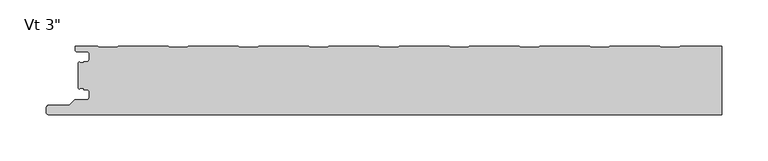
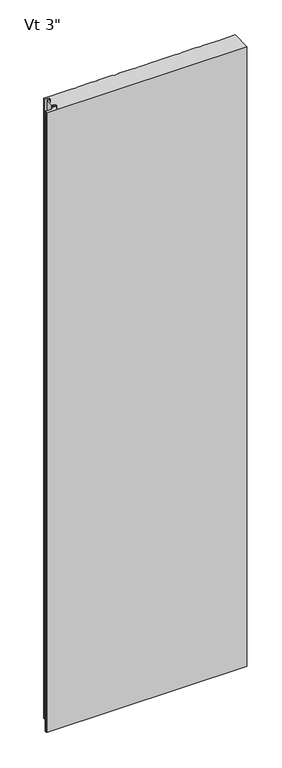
"""IFC4 building model written with IfcOpenShell, lengths in millimetres: plate geometry."""

import ifcopenshell
import ifcopenshell.guid

model = None  # the IFC model being written
_history = None  # IfcOwnerHistory: only IFC2X3 demands one
_inside = {}  # id of a spatial element -> (the spatial element, [elements in it])
_under = {}  # id of a project, library or spatial element -> (it, [spatial elements below it])
_declared = {}  # id of a project -> (the project, [libraries it declares])
_typed = {}  # id of a type object -> (the type object, [elements of that type])
_made_of = {}  # id of a material, layer set ... -> (it, [elements and type objects made of it])


def new_model(schema):
    """Start an empty IFC model of exactly this schema.

    Asked for "IFC4X3", IfcOpenShell would pick the latest addendum, in which some entities
    have other attributes; the version numbers below select the first issue.
    IFC2X3 requires an IfcOwnerHistory on every rooted entity: one is made here for all.
    """
    global model, _history
    if schema == "IFC4X3":
        model = ifcopenshell.file(schema_version=(4, 3, 0, 0))
    else:
        model = ifcopenshell.file(schema=schema)
    _inside.clear()
    _under.clear()
    _declared.clear()
    _typed.clear()
    _made_of.clear()
    _history = None
    if model.schema == "IFC2X3":
        org = make("IfcOrganization", Name="unknown")
        user = make(
            "IfcPersonAndOrganization",
            ThePerson=make("IfcPerson", FamilyName="unknown"),
            TheOrganization=org,
        )
        app = make(
            "IfcApplication",
            ApplicationDeveloper=org,
            Version="unknown",
            ApplicationFullName="unknown",
            ApplicationIdentifier="unknown",
        )
        _history = make(
            "IfcOwnerHistory",
            OwningUser=user,
            OwningApplication=app,
            ChangeAction="ADDED",
            CreationDate=0,
        )
    return model


def make(cls, **values):
    """One entity of the class cls with the attributes given. An attribute that is None is left unset."""
    return model.create_entity(
        cls, **{name: value for name, value in values.items() if value is not None}
    )


def rooted(cls, **values):
    """An entity with a GlobalId (a new one), such as an element, a storey or a relation."""
    return make(cls, GlobalId=ifcopenshell.guid.new(), OwnerHistory=_history, **values)


def si_unit(unit_type, name, prefix=None):
    """IfcSIUnit, for example si_unit("LENGTHUNIT", "METRE", prefix="MILLI")."""
    return make("IfcSIUnit", UnitType=unit_type, Prefix=prefix, Name=name)


def assignment(units):
    """IfcUnitAssignment: the units of a project."""
    return None if units is None else make("IfcUnitAssignment", Units=units)


def point(xyz):
    """IfcCartesianPoint."""
    return None if xyz is None else make("IfcCartesianPoint", Coordinates=xyz)


def direction(xyz):
    """IfcDirection."""
    return None if xyz is None else make("IfcDirection", DirectionRatios=xyz)


def frame(location, z_axis=None, x_axis=None):
    """IfcAxis2Placement3D, a coordinate frame: its origin and axes. An axis left out is left unset."""
    return make(
        "IfcAxis2Placement3D",
        Location=point(location),
        Axis=direction(z_axis),
        RefDirection=direction(x_axis),
    )


def origin():
    """The frame at (0, 0, 0) with its axes left unset."""
    return frame((0.0, 0.0, 0.0))


def place(relative_to, where):
    """IfcLocalPlacement: puts the frame where relative to a parent placement (None: the world)."""
    return make(
        "IfcLocalPlacement", PlacementRelTo=relative_to, RelativePlacement=where
    )


def context(
    kind, dimensions, precision=None, world=None, true_north=None, identifier=None
):
    """IfcGeometricRepresentationContext, for example the 3D "Model" context."""
    return make(
        "IfcGeometricRepresentationContext",
        ContextIdentifier=identifier,
        ContextType=kind,
        CoordinateSpaceDimension=dimensions,
        Precision=precision,
        WorldCoordinateSystem=world,
        TrueNorth=true_north,
    )


def project(units=None, contexts=None):
    """IfcProject with its units and contexts."""
    return rooted(
        "IfcProject",
        Name="project",
        RepresentationContexts=contexts,
        UnitsInContext=assignment(units),
    )


def spatial(cls, under=None, at=None, **own):
    """A site, building, storey or space (cls), placed at a placement, below another one or the project."""
    s = rooted(cls, ObjectPlacement=at, **own)
    if under is not None:
        _under.setdefault(under.id(), (under, []))[1].append(s)
    return s


def polyline(points):
    """IfcPolyline through the points."""
    return make("IfcPolyline", Points=[point(p) for p in points])


def circle_curve(where, radius):
    """IfcCircle in the frame where."""
    return make("IfcCircle", Position=where, Radius=radius)


def shape(context_of_items, identifier, shape_type, items):
    """IfcShapeRepresentation: the items that make up one representation, for example the "Body"."""
    return make(
        "IfcShapeRepresentation",
        ContextOfItems=context_of_items,
        RepresentationIdentifier=identifier,
        RepresentationType=shape_type,
        Items=items,
    )


def source(mapping_origin, context_of_items, identifier, shape_type, items):
    """IfcRepresentationMap: a shape defined once, which mapped items show again and again."""
    return make(
        "IfcRepresentationMap",
        MappingOrigin=mapping_origin,
        MappedRepresentation=shape(context_of_items, identifier, shape_type, items),
    )


def transform(
    local_origin,
    x_axis=None,
    y_axis=None,
    z_axis=None,
    scale=None,
    scale2=None,
    scale3=None,
    uniform=True,
):
    """IfcCartesianTransformationOperator3D, or its non-uniform kind. x_axis, y_axis, z_axis: its Axis1, 2, 3."""
    if uniform:
        return make(
            "IfcCartesianTransformationOperator3D",
            Axis1=direction(x_axis),
            Axis2=direction(y_axis),
            LocalOrigin=point(local_origin),
            Scale=scale,
            Axis3=direction(z_axis),
        )
    return make(
        "IfcCartesianTransformationOperator3DnonUniform",
        Axis1=direction(x_axis),
        Axis2=direction(y_axis),
        LocalOrigin=point(local_origin),
        Scale=scale,
        Axis3=direction(z_axis),
        Scale2=scale2,
        Scale3=scale3,
    )


def mapped(mapping_source, mapping_target):
    """IfcMappedItem: shows the shape of a source again, moved by a transform."""
    return make(
        "IfcMappedItem", MappingSource=mapping_source, MappingTarget=mapping_target
    )


def made_of(thing, what):
    """Note that an element or type object is made of a material, layer set ...; save() writes the relation."""
    if what is not None:
        _made_of.setdefault(what.id(), (what, []))[1].append(thing)
    return thing


def element(
    cls,
    number,
    at=None,
    inside=None,
    cuts=None,
    type_object=None,
    material=None,
    context=None,
    identifier="Body",
    shape_type=None,
    held_by="IfcProductDefinitionShape",
    body=None,
    shapes=None,
    **own,
):
    """One element of the class cls, such as IfcWall. Its Tag is "e" and its number.

    at: its placement. inside: the storey or other place that contains it. cuts: it is an
    opening in that element (IfcRelVoidsElement). A single representation is given by context,
    identifier, shape_type and body (its items); several are given by shapes. held_by: the class
    of the entity that holds the representations. save() writes the other relations.
    """
    e = rooted(cls, Tag="e%d" % number, ObjectPlacement=at, **own)
    if body is not None:
        shapes = [shape(context, identifier, shape_type, body)]
    if shapes is not None:
        e.Representation = make(held_by, Representations=shapes)
    if inside is not None:
        _inside.setdefault(inside.id(), (inside, []))[1].append(e)
    if cuts is not None:
        rooted(
            "IfcRelVoidsElement", RelatingBuildingElement=cuts, RelatedOpeningElement=e
        )
    if type_object is not None:
        _typed.setdefault(type_object.id(), (type_object, []))[1].append(e)
    return made_of(e, material)


def aggregate(whole, parts):
    """IfcRelAggregates: a whole, such as a stair, and the parts it consists of."""
    return rooted("IfcRelAggregates", RelatingObject=whole, RelatedObjects=parts)


def save(model, path):
    """Write the relations noted so far, then the file.

    IfcRelAggregates (storeys below a building ...), IfcRelContainedInSpatialStructure (elements
    in a storey), IfcRelDefinesByType, IfcRelAssociatesMaterial and IfcRelDeclares: one each for
    every whole, place, type object, material and project.
    """
    for whole, parts in _under.values():
        aggregate(whole, parts)
    for where, things in _inside.values():
        rooted(
            "IfcRelContainedInSpatialStructure",
            RelatedElements=things,
            RelatingStructure=where,
        )
    for kind, things in _typed.values():
        rooted("IfcRelDefinesByType", RelatedObjects=things, RelatingType=kind)
    for what, things in _made_of.values():
        rooted("IfcRelAssociatesMaterial", RelatedObjects=things, RelatingMaterial=what)
    for by, libraries in _declared.values():
        rooted("IfcRelDeclares", RelatingContext=by, RelatedDefinitions=libraries)
    model.write(path)


def plane_surface(at):
    """IfcPlane: the flat surface through the origin of the frame at, square to its z axis."""
    return make("IfcPlane", Position=at)


def cylinder_surface(at, radius):
    """IfcCylindricalSurface: all points at the distance radius from the z axis of the frame at."""
    return make("IfcCylindricalSurface", Position=at, Radius=radius)


def revolved_surface(curve, axis_point, axis_direction):
    """IfcSurfaceOfRevolution: the curve turned about the line through axis_point along axis_direction."""
    return make(
        "IfcSurfaceOfRevolution",
        SweptCurve=make("IfcArbitraryOpenProfileDef", ProfileType="CURVE", Curve=curve),
        AxisPosition=make("IfcAxis1Placement", Location=point(axis_point), Axis=direction(axis_direction)),
    )


def advanced_brep(points, edges, surfaces, faces):
    """IfcAdvancedBrep: a solid bounded by faces that lie on surfaces and meet in shared edges.

    An edge is (start, end): straight between two places in points (the first is 0);
    or (start, end, curve); or (start, end, curve, False) where it runs against its curve.
    A face is (place in surfaces, loops), or (place, loops, False) where it looks against
    its surface's normal. A loop lists edges by number (the first is 1), with a minus sign
    where the edge is run from its end to its start. The first loop is the outer one.
    """
    corners = [point(p) for p in points]
    vertices = [make("IfcVertexPoint", VertexGeometry=c) for c in corners]
    made = []
    for start, end, *more in edges:
        made.append(
            make(
                "IfcEdgeCurve",
                EdgeStart=vertices[start],
                EdgeEnd=vertices[end],
                EdgeGeometry=more[0] if more else make("IfcPolyline", Points=[corners[start], corners[end]]),
                SameSense=more[1] if len(more) > 1 else True,
            )
        )
    hull = []
    for where, loops, *sense in faces:
        bounds = []
        for j, loop in enumerate(loops):
            ring = [make("IfcOrientedEdge", EdgeElement=made[abs(k) - 1], Orientation=k > 0) for k in loop]
            bounds.append(
                make(
                    "IfcFaceOuterBound" if j == 0 else "IfcFaceBound",
                    Bound=make("IfcEdgeLoop", EdgeList=ring),
                    Orientation=True,
                )
            )
        hull.append(make("IfcAdvancedFace", Bounds=bounds, FaceSurface=surfaces[where], SameSense=sense[0] if sense else True))
    return make("IfcAdvancedBrep", Outer=make("IfcClosedShell", CfsFaces=hull))


def plate_a3a11aaa(model_context):
    return source(origin(), model_context, "Body", "AdvancedBrep", [
        advanced_brep(
        [(-347.9683, -47.8708793, 2400.0), (-346.767176, -46.7014045, 2400.0), (-343.0087826, -46.7014045, 2400.0), (-343.0087826, -48.0998834, 2400.0), (-340.3096715, -48.0998834, 2400.0), (-336.9596762, -51.4498787, 2400.0), (-336.9596762, -55.8498699, 2400.0), (-340.3096715, -59.1998652, 2400.0), (-352.1205606, -59.1998652, 2400.0), (-353.3226383, -59.6977821, 2400.0), (-358.8247094, -65.1998532, 2400.0), (-380.9198391, -65.1998532, 2400.0), (-383.5765707, -67.4184552, 2400.0), (-384.0125697, -72.4002761, 2400.0), (-381.4521175, -75.194601, 2400.0), (348.9999998, -75.2000043, 2400.0), (348.9999998, -1.0000043, 2400.0), (303.7792489, -1.0000043, 2400.0), (302.3936159, -2.200235, 2400.0), (283.0184496, -2.200235, 2400.0), (281.6328167, -1.0000043, 2400.0), (227.5794013, -1.0000043, 2400.0), (226.1937683, -2.200235, 2400.0), (206.818602, -2.200235, 2400.0), (205.4329691, -1.0000043, 2400.0), (151.3795537, -1.0000043, 2400.0), (149.9939207, -2.200235, 2400.0), (130.6187544, -2.200235, 2400.0), (129.2331215, -1.0000043, 2400.0), (75.1797061, -1.0000043, 2400.0), (73.7940731, -2.200235, 2400.0), (54.4189068, -2.200235, 2400.0), (53.0332739, -1.0000043, 2400.0), (-1.0201415, -1.0000043, 2400.0), (-2.4057745, -2.200235, 2400.0), (-21.7809408, -2.200235, 2400.0), (-23.1665737, -1.0000043, 2400.0), (-77.2199891, -1.0000043, 2400.0), (-78.6056221, -2.200235, 2400.0), (-97.9807884, -2.200235, 2400.0), (-99.3664213, -1.0000043, 2400.0), (-153.4198367, -1.0000043, 2400.0), (-154.8054697, -2.200235, 2400.0), (-174.180636, -2.200235, 2400.0), (-175.5662689, -1.0000043, 2400.0), (-229.6196843, -1.0000043, 2400.0), (-231.0053173, -2.200235, 2400.0), (-250.3804836, -2.200235, 2400.0), (-251.7661165, -1.0000043, 2400.0), (-305.8195319, -1.0000043, 2400.0), (-307.2051649, -2.200235, 2400.0), (-326.5803312, -2.200235, 2400.0), (-327.9659738, -0.9999959, 2400.0), (-352.4662504, -0.9999959, 2400.0), (-352.4662504, -5.2315432, 2400.0), (-350.6962562, -7.0015374, 2400.0), (-340.2762777, -7.0015374, 2400.0), (-336.9762818, -10.3015333, 2400.0), (-336.9762818, -14.7015245, 2400.0), (-340.2762775, -18.0015202, 2400.0), (-342.9684873, -18.0015202, 2400.0), (-342.9684873, -19.0015147, 2400.0), (-346.968691, -19.0015147, 2400.0), (-347.9686882, -18.0015235, 2400.0), (-348.9999998, -19.0328351, 2400.0), (-348.9999998, -46.8391794, 2400.0), (-347.9683, -47.8708793, 0.0), (-348.9999998, -46.8391794, 0.0), (-348.9999998, -19.0328351, 0.0), (-347.9686882, -18.0015235, 0.0), (-346.968691, -19.0015147, 0.0), (-342.9684873, -19.0015147, 0.0), (-342.9684873, -18.0015202, 0.0), (-340.2762775, -18.0015202, 0.0), (-336.9762818, -14.7015245, 0.0), (-336.9762818, -10.3015333, 0.0), (-340.2762777, -7.0015374, 0.0), (-350.6962562, -7.0015374, 0.0), (-352.4662504, -5.2315432, 0.0), (-352.4662504, -0.9999959, 0.0), (-327.9659738, -0.9999959, 0.0), (-326.5803312, -2.200235, 0.0), (-307.2051649, -2.200235, 0.0), (-305.8195319, -1.0000043, 0.0), (-251.7661165, -1.0000043, 0.0), (-250.3804836, -2.200235, 0.0), (-231.0053173, -2.200235, 0.0), (-229.6196843, -1.0000043, 0.0), (-175.5662689, -1.0000043, 0.0), (-174.180636, -2.200235, 0.0), (-154.8054697, -2.200235, 0.0), (-153.4198367, -1.0000043, 0.0), (-99.3664213, -1.0000043, 0.0), (-97.9807884, -2.200235, 0.0), (-78.6056221, -2.200235, 0.0), (-77.2199891, -1.0000043, 0.0), (-23.1665737, -1.0000043, 0.0), (-21.7809408, -2.200235, 0.0), (-2.4057745, -2.200235, 0.0), (-1.0201415, -1.0000043, 0.0), (53.0332739, -1.0000043, 0.0), (54.4189068, -2.200235, 0.0), (73.7940731, -2.200235, 0.0), (75.1797061, -1.0000043, 0.0), (129.2331215, -1.0000043, 0.0), (130.6187544, -2.200235, 0.0), (149.9939207, -2.200235, 0.0), (151.3795537, -1.0000043, 0.0), (205.4329691, -1.0000043, 0.0), (206.818602, -2.200235, 0.0), (226.1937683, -2.200235, 0.0), (227.5794013, -1.0000043, 0.0), (281.6328167, -1.0000043, 0.0), (283.0184496, -2.200235, 0.0), (302.3936159, -2.200235, 0.0), (303.7792489, -1.0000043, 0.0), (348.9999998, -1.0000043, 0.0), (348.9999998, -75.2000043, 0.0), (-381.4521175, -75.2000043, 0.0), (-384.0125697, -72.4002761, 0.0), (-383.5765707, -67.4184552, 0.0), (-380.9198391, -65.1998532, 0.0), (-358.8247094, -65.1998532, 0.0), (-353.3226383, -59.6977821, 0.0), (-352.1205606, -59.1998652, 0.0), (-340.3096715, -59.1998652, 0.0), (-336.9596762, -55.8498699, 0.0), (-336.9596762, -51.4498787, 0.0), (-340.3096715, -48.0998834, 0.0), (-343.0087826, -48.0998834, 0.0), (-343.0087826, -46.7014045, 0.0), (-346.767176, -46.7014045, 0.0)],
        [
            (0, 1, circle_curve(frame((-346.7686906, -47.9014012, 2400.0), z_axis=(0.0, 0.0, -1.0), x_axis=(-1.0, 0.0, 0.0)), 1.1999976)),
            (1, 2),
            (2, 3),
            (3, 4),
            (4, 5, circle_curve(frame((-340.3096715, -51.4498787, 2400.0), z_axis=(0.0, 0.0, -1.0), x_axis=(-1.0, 0.0, 0.0)), 3.3499953)),
            (5, 6),
            (6, 7, circle_curve(frame((-340.3096715, -55.8498699, 2400.0), z_axis=(0.0, 0.0, -1.0), x_axis=(-1.0, 0.0, 0.0)), 3.3499953)),
            (7, 8),
            (8, 9, circle_curve(frame((-352.1205606, -60.8998598, 2400.0), z_axis=(0.0, 0.0, 1.0), x_axis=(-1.0, 0.0, 0.0)), 1.6999946)),
            (9, 10),
            (10, 11),
            (11, 12, circle_curve(frame((-380.9198391, -67.8998458, 2400.0), z_axis=(0.0, 0.0, 1.0), x_axis=(-1.0, 0.0, 0.0)), 2.6999926)),
            (12, 13),
            (13, 14, circle_curve(frame((-381.4521175, -72.6243617, 2400.0), z_axis=(0.0, 0.0, 1.0), x_axis=(-1.0, 0.0, 0.0)), 2.5702393)),
            (14, 15),
            (15, 16),
            (16, 17),
            (17, 18),
            (18, 19),
            (19, 20),
            (20, 21),
            (21, 22),
            (22, 23),
            (23, 24),
            (24, 25),
            (25, 26),
            (26, 27),
            (27, 28),
            (28, 29),
            (29, 30),
            (30, 31),
            (31, 32),
            (32, 33),
            (33, 34),
            (34, 35),
            (35, 36),
            (36, 37),
            (37, 38),
            (38, 39),
            (39, 40),
            (40, 41),
            (41, 42),
            (42, 43),
            (43, 44),
            (44, 45),
            (45, 46),
            (46, 47),
            (47, 48),
            (48, 49),
            (49, 50),
            (50, 51),
            (51, 52),
            (52, 53),
            (53, 54),
            (54, 55, circle_curve(frame((-350.6962562, -5.2315432, 2400.0), z_axis=(0.0, 0.0, 1.0), x_axis=(1.0, 0.0, 0.0)), 1.7699942)),
            (55, 56),
            (56, 57, circle_curve(frame((-340.2762777, -10.3015333, 2400.0), z_axis=(0.0, 0.0, -1.0), x_axis=(1.0, 0.0, 0.0)), 3.2999959)),
            (57, 58),
            (58, 59, circle_curve(frame((-340.2762775, -14.7015245, 2400.0), z_axis=(0.0, 0.0, -1.0), x_axis=(1.0, 0.0, 0.0)), 3.2999957)),
            (59, 60),
            (60, 61),
            (61, 62),
            (62, 63, circle_curve(frame((-346.968691, -18.0015175, 2400.0), z_axis=(0.0, 0.0, -1.0), x_axis=(1.0, 0.0, 0.0)), 0.9999972)),
            (63, 64),
            (64, 65),
            (65, 0),
            (66, 67),
            (67, 68),
            (68, 69),
            (69, 70, circle_curve(frame((-346.968691, -18.0015175, 0.0), z_axis=(0.0, 0.0, 1.0), x_axis=(1.0, 0.0, 0.0)), 0.9999972)),
            (70, 71),
            (71, 72),
            (72, 73),
            (73, 74, circle_curve(frame((-340.2762775, -14.7015245, 0.0), z_axis=(0.0, 0.0, 1.0), x_axis=(1.0, 0.0, 0.0)), 3.2999957)),
            (74, 75),
            (75, 76, circle_curve(frame((-340.2762777, -10.3015333, 0.0), z_axis=(0.0, 0.0, 1.0), x_axis=(1.0, 0.0, 0.0)), 3.2999959)),
            (76, 77),
            (77, 78, circle_curve(frame((-350.6962562, -5.2315432, 0.0), z_axis=(0.0, 0.0, -1.0), x_axis=(1.0, 0.0, 0.0)), 1.7699942)),
            (78, 79),
            (79, 80),
            (80, 81),
            (81, 82),
            (82, 83),
            (83, 84),
            (84, 85),
            (85, 86),
            (86, 87),
            (87, 88),
            (88, 89),
            (89, 90),
            (90, 91),
            (91, 92),
            (92, 93),
            (93, 94),
            (94, 95),
            (95, 96),
            (96, 97),
            (97, 98),
            (98, 99),
            (99, 100),
            (100, 101),
            (101, 102),
            (102, 103),
            (103, 104),
            (104, 105),
            (105, 106),
            (106, 107),
            (107, 108),
            (108, 109),
            (109, 110),
            (110, 111),
            (111, 112),
            (112, 113),
            (113, 114),
            (114, 115),
            (115, 116),
            (116, 117),
            (117, 118),
            (118, 119, circle_curve(frame((-381.4521175, -72.6243617, 0.0), z_axis=(0.0, 0.0, -1.0), x_axis=(-1.0, 0.0, 0.0)), 2.5702393)),
            (119, 120),
            (120, 121, circle_curve(frame((-380.9198391, -67.8998458, 0.0), z_axis=(0.0, 0.0, -1.0), x_axis=(-1.0, 0.0, 0.0)), 2.6999926)),
            (121, 122),
            (122, 123),
            (123, 124, circle_curve(frame((-352.1205606, -60.8998598, 0.0), z_axis=(0.0, 0.0, -1.0), x_axis=(-1.0, 0.0, 0.0)), 1.6999946)),
            (124, 125),
            (125, 126, circle_curve(frame((-340.3096715, -55.8498699, 0.0), z_axis=(0.0, 0.0, 1.0), x_axis=(-1.0, 0.0, 0.0)), 3.3499953)),
            (126, 127),
            (127, 128, circle_curve(frame((-340.3096715, -51.4498787, 0.0), z_axis=(0.0, 0.0, 1.0), x_axis=(-1.0, 0.0, 0.0)), 3.3499953)),
            (128, 129),
            (129, 130),
            (130, 131),
            (131, 66, circle_curve(frame((-346.7686906, -47.9014012, 0.0), z_axis=(0.0, 0.0, 1.0), x_axis=(-1.0, 0.0, 0.0)), 1.1999976)),
            (65, 67),
            (66, 0),
            (64, 68),
            (117, 15),
            (14, 118),
            (13, 119),
            (12, 120),
            (11, 121),
            (10, 122),
            (9, 123),
            (8, 124),
            (7, 125),
            (6, 126),
            (5, 127),
            (4, 128),
            (3, 129),
            (2, 130),
            (1, 131),
            (116, 16),
            (63, 69),
            (62, 70),
            (61, 71),
            (60, 72),
            (59, 73),
            (58, 74),
            (57, 75),
            (56, 76),
            (55, 77),
            (54, 78),
            (53, 79),
            (52, 80),
            (51, 81),
            (50, 82),
            (49, 83),
            (48, 84),
            (47, 85),
            (46, 86),
            (45, 87),
            (44, 88),
            (43, 89),
            (42, 90),
            (41, 91),
            (40, 92),
            (39, 93),
            (38, 94),
            (37, 95),
            (36, 96),
            (35, 97),
            (34, 98),
            (33, 99),
            (32, 100),
            (31, 101),
            (30, 102),
            (29, 103),
            (28, 104),
            (27, 105),
            (26, 106),
            (25, 107),
            (24, 108),
            (23, 109),
            (22, 110),
            (21, 111),
            (20, 112),
            (19, 113),
            (18, 114),
            (17, 115),
        ],
        [
            plane_surface(frame((32.0000002, -75.2000043, 2400.0), z_axis=(0.0, 0.0, 1.0), x_axis=(0.0, -1.0, 0.0))),
            plane_surface(frame((32.0000002, -75.2000043, 0.0), z_axis=(0.0, 0.0, -1.0), x_axis=(0.0, -1.0, 0.0))),
            plane_surface(frame((-347.9683, -47.8708793, 2400.0), z_axis=(-0.7071067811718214, -0.7071067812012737, 0.0), x_axis=(0.0, 0.0, -1.0))),
            plane_surface(frame((-348.9999998, -46.8391794, 2400.0), z_axis=(-1.0, 0.0, 0.0), x_axis=(0.0, 0.0, -1.0))),
            plane_surface(frame((364.5156221, -75.2000043, 2400.0), z_axis=(0.0, -1.0, 0.0), x_axis=(0.0, 0.0, -1.0))),
            cylinder_surface(frame((-381.4521175, -72.6243617, 2400.0), z_axis=(0.0, 0.0, 1.0), x_axis=(-1.0, 0.0, 0.0)), 2.5702393),
            plane_surface(frame((-384.0125697, -72.4002761, 2400.0), z_axis=(-0.9961921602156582, 0.08718474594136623, 0.0), x_axis=(0.0, 0.0, -1.0))),
            cylinder_surface(frame((-380.9198391, -67.8998458, 2400.0), z_axis=(0.0, 0.0, 1.0), x_axis=(-1.0, 0.0, 0.0)), 2.6999926),
            plane_surface(frame((-380.9198391, -65.1998532, 2400.0), z_axis=(0.0, 1.0, 0.0), x_axis=(0.0, 0.0, -1.0))),
            plane_surface(frame((-358.8247094, -65.1998532, 2400.0), z_axis=(-0.7071067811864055, 0.7071067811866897, 0.0), x_axis=(0.0, 0.0, -1.0))),
            cylinder_surface(frame((-352.1205606, -60.8998598, 2400.0), z_axis=(0.0, 0.0, 1.0), x_axis=(-1.0, 0.0, 0.0)), 1.6999946),
            plane_surface(frame((-352.1205606, -59.1998652, 2400.0), z_axis=(0.0, 1.0, 0.0), x_axis=(0.0, 0.0, -1.0))),
            revolved_surface(polyline([(-343.65966679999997, -55.8498699, 0.0), (-343.65966679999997, -55.8498699, 2400.0)]), (-340.3096715, -55.8498699, 2400.0), (0.0, 0.0, -1.0)),
            plane_surface(frame((-336.9596762, -55.8498699, 2400.0), z_axis=(-1.0, 0.0, 0.0), x_axis=(0.0, 0.0, -1.0))),
            revolved_surface(polyline([(-343.65966679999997, -51.4498787, 0.0), (-343.65966679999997, -51.4498787, 2400.0)]), (-340.3096715, -51.4498787, 2400.0), (0.0, 0.0, -1.0)),
            plane_surface(frame((-340.3096715, -48.0998834, 2400.0), z_axis=(0.0, -1.0, 0.0), x_axis=(0.0, 0.0, -1.0))),
            plane_surface(frame((-343.0087826, -48.0998834, 2400.0), z_axis=(-1.0, 0.0, 0.0), x_axis=(0.0, 0.0, -1.0))),
            plane_surface(frame((-343.0087826, -46.7014045, 2400.0), z_axis=(0.0, -1.0, 0.0), x_axis=(0.0, 0.0, -1.0))),
            revolved_surface(polyline([(-347.96868820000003, -47.9014012, 0.0), (-347.96868820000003, -47.9014012, 2400.0)]), (-346.7686906, -47.9014012, 2400.0), (0.0, 0.0, -1.0)),
            plane_surface(frame((348.9999998, -86.2000043, 2400.0), z_axis=(1.0, 0.0, 0.0), x_axis=(0.0, 0.0, -1.0))),
            plane_surface(frame((-348.9999998, -19.0328351, 2400.0), z_axis=(-0.7071067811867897, 0.7071067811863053, 0.0), x_axis=(0.0, 0.0, -1.0))),
            revolved_surface(polyline([(-345.9686938, -18.0015175, 0.0), (-345.9686938, -18.0015175, 2400.0)]), (-346.968691, -18.0015175, 2400.0), (0.0, 0.0, -1.0)),
            plane_surface(frame((-346.968691, -19.0015147, 2400.0), z_axis=(0.0, 1.0, 0.0), x_axis=(0.0, 0.0, -1.0))),
            plane_surface(frame((-342.9684873, -19.0015147, 2400.0), z_axis=(-1.0, 0.0, 0.0), x_axis=(0.0, 0.0, -1.0))),
            plane_surface(frame((-342.9684873, -18.0015202, 2400.0), z_axis=(0.0, 1.0, 0.0), x_axis=(0.0, 0.0, -1.0))),
            revolved_surface(polyline([(-336.9762818, -14.7015245, 0.0), (-336.9762818, -14.7015245, 2400.0)]), (-340.2762775, -14.7015245, 2400.0), (0.0, 0.0, -1.0)),
            plane_surface(frame((-336.9762818, -14.7015245, 2400.0), z_axis=(-1.0, 0.0, 0.0), x_axis=(0.0, 0.0, -1.0))),
            revolved_surface(polyline([(-336.9762818, -10.3015333, 0.0), (-336.9762818, -10.3015333, 2400.0)]), (-340.2762777, -10.3015333, 2400.0), (0.0, 0.0, -1.0)),
            plane_surface(frame((-340.2762777, -7.0015374, 2400.0), z_axis=(0.0, -1.0, 0.0), x_axis=(0.0, 0.0, -1.0))),
            cylinder_surface(frame((-350.6962562, -5.2315432, 2400.0), z_axis=(0.0, 0.0, 1.0), x_axis=(1.0, 0.0, 0.0)), 1.7699942),
            plane_surface(frame((-352.4662504, -5.2315432, 2400.0), z_axis=(-1.0, 0.0, 0.0), x_axis=(0.0, 0.0, -1.0))),
            plane_surface(frame((-352.4662504, -0.9999959, 2400.0), z_axis=(0.0, 1.0, 0.0), x_axis=(0.0, 0.0, -1.0))),
            plane_surface(frame((-327.9659738, -0.9999959, 2400.0), z_axis=(0.6547276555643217, 0.755864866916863, 0.0), x_axis=(0.0, 0.0, -1.0))),
            plane_surface(frame((-326.5803312, -2.200235, 2400.0), z_axis=(0.0, 1.0, 0.0), x_axis=(0.0, 0.0, -1.0))),
            plane_surface(frame((-307.2051649, -2.200235, 2400.0), z_axis=(-0.6547276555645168, 0.755864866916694, 0.0), x_axis=(0.0, 0.0, -1.0))),
            plane_surface(frame((-305.8195319, -1.0000043, 2400.0), z_axis=(0.0, 1.0, 0.0), x_axis=(0.0, 0.0, -1.0))),
            plane_surface(frame((-251.7661165, -1.0000043, 2400.0), z_axis=(0.6547276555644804, 0.7558648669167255, 0.0), x_axis=(0.0, 0.0, -1.0))),
            plane_surface(frame((-250.3804836, -2.200235, 2400.0), z_axis=(0.0, 1.0, 0.0), x_axis=(0.0, 0.0, -1.0))),
            plane_surface(frame((-231.0053173, -2.200235, 2400.0), z_axis=(-0.6547276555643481, 0.7558648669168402, 0.0), x_axis=(0.0, 0.0, -1.0))),
            plane_surface(frame((-229.6196843, -1.0000043, 2400.0), z_axis=(0.0, 1.0, 0.0), x_axis=(0.0, 0.0, -1.0))),
            plane_surface(frame((-175.5662689, -1.0000043, 2400.0), z_axis=(0.6547276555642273, 0.7558648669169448, 0.0), x_axis=(0.0, 0.0, -1.0))),
            plane_surface(frame((-174.180636, -2.200235, 2400.0), z_axis=(0.0, 1.0, 0.0), x_axis=(0.0, 0.0, -1.0))),
            plane_surface(frame((-154.8054697, -2.200235, 2400.0), z_axis=(-0.6547276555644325, 0.755864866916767, 0.0), x_axis=(0.0, 0.0, -1.0))),
            plane_surface(frame((-153.4198367, -1.0000043, 2400.0), z_axis=(0.0, 1.0, 0.0), x_axis=(0.0, 0.0, -1.0))),
            plane_surface(frame((-99.3664213, -1.0000043, 2400.0), z_axis=(0.6547276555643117, 0.7558648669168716, 0.0), x_axis=(0.0, 0.0, -1.0))),
            plane_surface(frame((-97.9807884, -2.200235, 2400.0), z_axis=(0.0, 1.0, 0.0), x_axis=(0.0, 0.0, -1.0))),
            plane_surface(frame((-78.6056221, -2.200235, 2400.0), z_axis=(-0.6547276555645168, 0.755864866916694, 0.0), x_axis=(0.0, 0.0, -1.0))),
            plane_surface(frame((-77.2199891, -1.0000043, 2400.0), z_axis=(0.0, 1.0, 0.0), x_axis=(0.0, 0.0, -1.0))),
            plane_surface(frame((-23.1665737, -1.0000043, 2400.0), z_axis=(0.654727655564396, 0.7558648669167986, 0.0), x_axis=(0.0, 0.0, -1.0))),
            plane_surface(frame((-21.7809408, -2.200235, 2400.0), z_axis=(0.0, 1.0, 0.0), x_axis=(0.0, 0.0, -1.0))),
            plane_surface(frame((-2.4057745, -2.200235, 2400.0), z_axis=(-0.6547276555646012, 0.7558648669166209, 0.0), x_axis=(0.0, 0.0, -1.0))),
            plane_surface(frame((-1.0201415, -1.0000043, 2400.0), z_axis=(0.0, 1.0, 0.0), x_axis=(0.0, 0.0, -1.0))),
            plane_surface(frame((53.0332739, -1.0000043, 2400.0), z_axis=(0.6547276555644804, 0.7558648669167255, 0.0), x_axis=(0.0, 0.0, -1.0))),
            plane_surface(frame((54.4189068, -2.200235, 2400.0), z_axis=(0.0, 1.0, 0.0), x_axis=(0.0, 0.0, -1.0))),
            plane_surface(frame((73.7940731, -2.200235, 2400.0), z_axis=(-0.65472765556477, 0.7558648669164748, 0.0), x_axis=(0.0, 0.0, -1.0))),
            plane_surface(frame((75.1797061, -1.0000043, 2400.0), z_axis=(0.0, 1.0, 0.0), x_axis=(0.0, 0.0, -1.0))),
            plane_surface(frame((129.2331215, -1.0000043, 2400.0), z_axis=(0.6547276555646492, 0.7558648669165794, 0.0), x_axis=(0.0, 0.0, -1.0))),
            plane_surface(frame((130.6187544, -2.200235, 2400.0), z_axis=(0.0, 1.0, 0.0), x_axis=(0.0, 0.0, -1.0))),
            plane_surface(frame((149.9939207, -2.200235, 2400.0), z_axis=(-0.65472765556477, 0.7558648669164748, 0.0), x_axis=(0.0, 0.0, -1.0))),
            plane_surface(frame((151.3795537, -1.0000043, 2400.0), z_axis=(0.0, 1.0, 0.0), x_axis=(0.0, 0.0, -1.0))),
            plane_surface(frame((205.4329691, -1.0000043, 2400.0), z_axis=(0.6547276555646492, 0.7558648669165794, 0.0), x_axis=(0.0, 0.0, -1.0))),
            plane_surface(frame((206.818602, -2.200235, 2400.0), z_axis=(0.0, 1.0, 0.0), x_axis=(0.0, 0.0, -1.0))),
            plane_surface(frame((226.1937683, -2.200235, 2400.0), z_axis=(-0.6547276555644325, 0.755864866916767, 0.0), x_axis=(0.0, 0.0, -1.0))),
            plane_surface(frame((227.5794013, -1.0000043, 2400.0), z_axis=(0.0, 1.0, 0.0), x_axis=(0.0, 0.0, -1.0))),
            plane_surface(frame((281.6328167, -1.0000043, 2400.0), z_axis=(0.6547276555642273, 0.7558648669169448, 0.0), x_axis=(0.0, 0.0, -1.0))),
            plane_surface(frame((283.0184496, -2.200235, 2400.0), z_axis=(0.0, 1.0, 0.0), x_axis=(0.0, 0.0, -1.0))),
            plane_surface(frame((302.3936159, -2.200235, 2400.0), z_axis=(-0.6547276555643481, 0.7558648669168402, 0.0), x_axis=(0.0, 0.0, -1.0))),
            plane_surface(frame((303.7792489, -1.0000043, 2400.0), z_axis=(0.0, 1.0, 0.0), x_axis=(0.0, 0.0, -1.0))),
        ],
        [
            (0, [[1, 2, 3, 4, 5, 6, 7, 8, 9, 10, 11, 12, 13, 14, 15, 16, 17, 18, 19, 20, 21, 22, 23, 24, 25, 26, 27, 28, 29, 30, 31, 32, 33, 34, 35, 36, 37, 38, 39, 40, 41, 42, 43, 44, 45, 46, 47, 48, 49, 50, 51, 52, 53, 54, 55, 56, 57, 58, 59, 60, 61, 62, 63, 64, 65, 66]]),
            (1, [[67, 68, 69, 70, 71, 72, 73, 74, 75, 76, 77, 78, 79, 80, 81, 82, 83, 84, 85, 86, 87, 88, 89, 90, 91, 92, 93, 94, 95, 96, 97, 98, 99, 100, 101, 102, 103, 104, 105, 106, 107, 108, 109, 110, 111, 112, 113, 114, 115, 116, 117, 118, 119, 120, 121, 122, 123, 124, 125, 126, 127, 128, 129, 130, 131, 132]]),
            (2, [[133, -67, 134, -66]]),
            (3, [[-65, 135, -68, -133]]),
            (4, [[-118, 136, -15, 137]]),
            (5, [[138, -119, -137, -14]]),
            (6, [[139, -120, -138, -13]]),
            (7, [[140, -121, -139, -12]]),
            (8, [[141, -122, -140, -11]]),
            (9, [[142, -123, -141, -10]]),
            (10, [[143, -124, -142, -9]]),
            (11, [[144, -125, -143, -8]]),
            (12, [[145, -126, -144, -7]]),
            (13, [[146, -127, -145, -6]]),
            (14, [[147, -128, -146, -5]]),
            (15, [[148, -129, -147, -4]]),
            (16, [[149, -130, -148, -3]]),
            (17, [[150, -131, -149, -2]]),
            (18, [[-134, -132, -150, -1]]),
            (19, [[-136, -117, 151, -16]]),
            (20, [[152, -69, -135, -64]]),
            (21, [[153, -70, -152, -63]]),
            (22, [[154, -71, -153, -62]]),
            (23, [[155, -72, -154, -61]]),
            (24, [[156, -73, -155, -60]]),
            (25, [[157, -74, -156, -59]]),
            (26, [[158, -75, -157, -58]]),
            (27, [[159, -76, -158, -57]]),
            (28, [[160, -77, -159, -56]]),
            (29, [[161, -78, -160, -55]]),
            (30, [[162, -79, -161, -54]]),
            (31, [[163, -80, -162, -53]]),
            (32, [[164, -81, -163, -52]]),
            (33, [[165, -82, -164, -51]]),
            (34, [[166, -83, -165, -50]]),
            (35, [[167, -84, -166, -49]]),
            (36, [[168, -85, -167, -48]]),
            (37, [[169, -86, -168, -47]]),
            (38, [[170, -87, -169, -46]]),
            (39, [[171, -88, -170, -45]]),
            (40, [[172, -89, -171, -44]]),
            (41, [[173, -90, -172, -43]]),
            (42, [[174, -91, -173, -42]]),
            (43, [[175, -92, -174, -41]]),
            (44, [[176, -93, -175, -40]]),
            (45, [[177, -94, -176, -39]]),
            (46, [[178, -95, -177, -38]]),
            (47, [[179, -96, -178, -37]]),
            (48, [[180, -97, -179, -36]]),
            (49, [[181, -98, -180, -35]]),
            (50, [[182, -99, -181, -34]]),
            (51, [[183, -100, -182, -33]]),
            (52, [[184, -101, -183, -32]]),
            (53, [[185, -102, -184, -31]]),
            (54, [[186, -103, -185, -30]]),
            (55, [[187, -104, -186, -29]]),
            (56, [[188, -105, -187, -28]]),
            (57, [[189, -106, -188, -27]]),
            (58, [[190, -107, -189, -26]]),
            (59, [[191, -108, -190, -25]]),
            (60, [[192, -109, -191, -24]]),
            (61, [[193, -110, -192, -23]]),
            (62, [[194, -111, -193, -22]]),
            (63, [[195, -112, -194, -21]]),
            (64, [[196, -113, -195, -20]]),
            (65, [[197, -114, -196, -19]]),
            (66, [[198, -115, -197, -18]]),
            (67, [[-17, -151, -116, -198]]),
        ],
    ),
    ])


if __name__ == "__main__":
    model = new_model("IFC4")
    model_context = context("Model", 3, world=origin())
    ifc_project = project(units=[si_unit("LENGTHUNIT", "METRE", prefix="MILLI")], contexts=[model_context])
    site = spatial("IfcSite", under=ifc_project)
    building = spatial("IfcBuilding", under=site)
    placement = place(None, origin())
    plate_shape = plate_a3a11aaa(model_context)
    element("IfcPlate", 1, ObjectType="KIP-30-Karrier-KP-R19-CP-Vt-FL3-8_SL : Vt 3\"", at=placement, inside=building, context=model_context, shape_type="MappedRepresentation", body=[
        mapped(plate_shape, transform((0.0, 0.0, 0.0), x_axis=(1.0, 0.0, 0.0), y_axis=(0.0, 1.0, 0.0), z_axis=(0.0, 0.0, 1.0))),
    ])
    save(model, "model.ifc")
